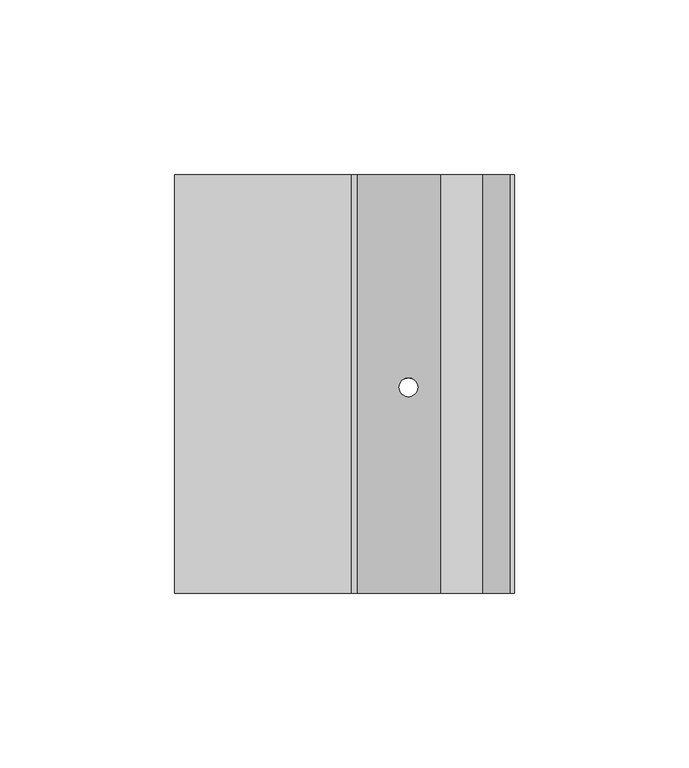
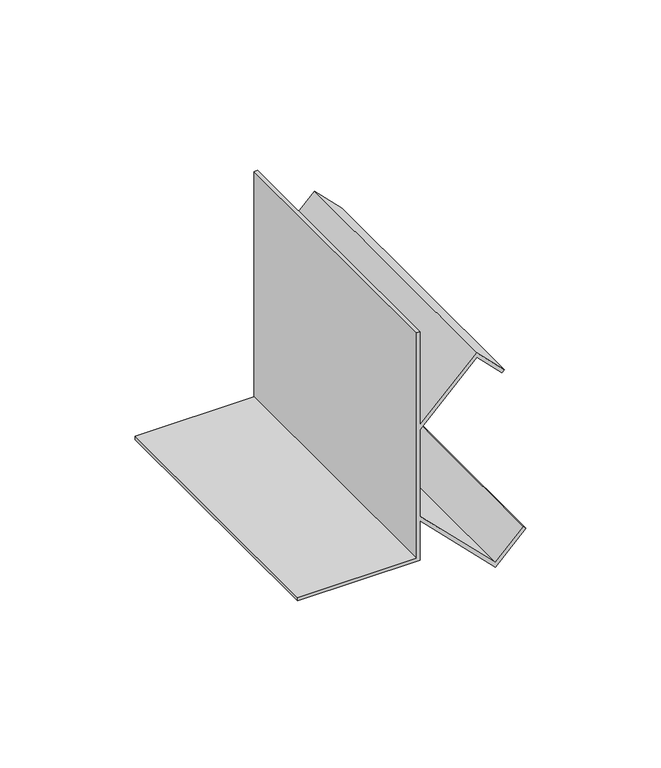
"""IFC4 building model written with IfcOpenShell, lengths in millimetres: proxy geometry, Mechanical Fittings & Accessories19 : Mechanical Fittings & Accessories."""

from ifc_helpers import new_model, si_unit, frame, origin, place, context, project, spatial, polyline, ellipse_curve, source, transform, mapped, element, save
from ifc_brep_helpers import plane_surface, revolved_surface, advanced_brep


def generic_models_30e69ff4(model_context):
    return source(origin(), model_context, "Body", "AdvancedBrep", [
        advanced_brep(
        [(-10977.7433312, 827.5745236, 4114.8), (-11028.5433312, 827.5745236, 4114.8), (-11028.5433312, 827.5745236, 4113.3117188), (-10976.25505, 827.5745236, 4113.3117188), (-10976.25505, 827.5745236, 4131.1383509), (-10944.145289, 827.5745236, 4099.0285899), (-10931.1663177, 827.5745236, 4112.0075612), (-10932.2186914, 827.5745236, 4113.059935), (-10944.145289, 827.5745236, 4101.1333374), (-10976.25505, 827.5745236, 4133.2430984), (-10976.25505, 827.5745236, 4172.2761118), (-10952.082789, 827.5745236, 4196.4483729), (-10941.3468164, 827.5745236, 4185.7124003), (-10940.2944427, 827.5745236, 4186.7647741), (-10952.082789, 827.5745236, 4198.5531204), (-10976.25505, 827.5745236, 4174.3808594), (-10976.25505, 827.5745236, 4216.4), (-10977.7433312, 827.5745236, 4216.4), (-10977.7433312, 947.5426707, 4114.8), (-10977.7433312, 947.5426707, 4216.4), (-10976.25505, 947.5426707, 4216.4), (-10976.25505, 947.5426707, 4174.3808594), (-10952.082789, 947.5426707, 4198.5531204), (-10940.2944427, 947.5426707, 4186.7647741), (-10941.3468164, 947.5426707, 4185.7124003), (-10952.082789, 947.5426707, 4196.4483729), (-10976.25505, 947.5426707, 4172.2761118), (-10976.25505, 947.5426707, 4133.2430984), (-10944.145289, 947.5426707, 4101.1333374), (-10932.2186914, 947.5426707, 4113.059935), (-10931.1663177, 947.5426707, 4112.0075612), (-10944.145289, 947.5426707, 4099.0285899), (-10976.25505, 947.5426707, 4131.1383509), (-10976.25505, 947.5426707, 4113.3117188), (-11028.5433312, 947.5426707, 4113.3117188), (-11028.5433312, 947.5426707, 4114.8), (-10964.1411396, 886.5972731, 4119.0244406), (-10958.8017728, 886.5972731, 4113.6850737), (-10958.8017728, 886.5972731, 4115.7898213), (-10964.1411396, 886.5972731, 4121.1291881), (-10964.1411396, 886.5972731, 4184.3900222), (-10958.8017728, 886.5972731, 4189.729389), (-10958.8017728, 886.5972731, 4191.8341365), (-10964.1411396, 886.5972731, 4186.4947697)],
        [
            (0, 1),
            (1, 2),
            (2, 3),
            (3, 4),
            (4, 5),
            (5, 6),
            (6, 7),
            (7, 8),
            (8, 9),
            (9, 10),
            (10, 11),
            (11, 12),
            (12, 13),
            (13, 14),
            (14, 15),
            (15, 16),
            (16, 17),
            (17, 0),
            (18, 19),
            (19, 20),
            (20, 21),
            (21, 22),
            (22, 23),
            (23, 24),
            (24, 25),
            (25, 26),
            (26, 27),
            (27, 28),
            (28, 29),
            (29, 30),
            (30, 31),
            (31, 32),
            (32, 33),
            (33, 34),
            (34, 35),
            (35, 18),
            (0, 18),
            (35, 1),
            (34, 2),
            (33, 3),
            (32, 4),
            (31, 5),
            (36, 37, ellipse_curve(frame((-10961.4714562, 886.5972731, 4116.3547571), z_axis=(0.7071067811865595, 0.0, 0.7071067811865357), x_axis=(-0.7071067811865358, 0.0, 0.7071067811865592)), 3.7755025, 2.6696834)),
            (37, 36, ellipse_curve(frame((-10961.4714562, 886.5972731, 4116.3547571), z_axis=(0.7071067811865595, 0.0, 0.7071067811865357), x_axis=(-0.7071067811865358, 0.0, 0.7071067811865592)), 3.7755025, 2.6696834)),
            (30, 6),
            (29, 7),
            (28, 8),
            (27, 9),
            (38, 39, ellipse_curve(frame((-10961.4714562, 886.5972731, 4118.4595047), z_axis=(-0.7071067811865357, 0.0, -0.7071067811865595), x_axis=(-0.7071067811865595, 0.0, 0.7071067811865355)), 3.7755025, 2.6696834)),
            (39, 38, ellipse_curve(frame((-10961.4714562, 886.5972731, 4118.4595047), z_axis=(-0.7071067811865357, 0.0, -0.7071067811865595), x_axis=(-0.7071067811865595, 0.0, 0.7071067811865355)), 3.7755025, 2.6696834)),
            (26, 10),
            (25, 11),
            (40, 41, ellipse_curve(frame((-10961.4714562, 886.5972731, 4187.0597056), z_axis=(-0.7071067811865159, 0.0, 0.7071067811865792), x_axis=(0.7071067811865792, 0.0, 0.7071067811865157)), 3.7755025, 2.6696834)),
            (41, 40, ellipse_curve(frame((-10961.4714562, 886.5972731, 4187.0597056), z_axis=(-0.7071067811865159, 0.0, 0.7071067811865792), x_axis=(0.7071067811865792, 0.0, 0.7071067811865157)), 3.7755025, 2.6696834)),
            (24, 12),
            (23, 13),
            (22, 14),
            (21, 15),
            (42, 43, ellipse_curve(frame((-10961.4714562, 886.5972731, 4189.1644531), z_axis=(0.7071067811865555, 0.0, -0.7071067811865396), x_axis=(0.7071067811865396, 0.0, 0.7071067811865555)), 3.7755025, 2.6696834)),
            (43, 42, ellipse_curve(frame((-10961.4714562, 886.5972731, 4189.1644531), z_axis=(0.7071067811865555, 0.0, -0.7071067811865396), x_axis=(0.7071067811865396, 0.0, 0.7071067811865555)), 3.7755025, 2.6696834)),
            (20, 16),
            (19, 17),
            (36, 39),
            (38, 37),
            (40, 43),
            (42, 41),
        ],
        [
            plane_surface(frame((-11028.5433312, 827.5745236, 4114.8), z_axis=(0.0, -1.0, 0.0), x_axis=(-1.0, 0.0, 0.0))),
            plane_surface(frame((-11028.5433312, 947.5426707, 4114.8), z_axis=(0.0, 1.0, 0.0), x_axis=(1.0, 0.0, 0.0))),
            plane_surface(frame((-10977.7433312, 827.5745236, 4114.8), z_axis=(0.0, 0.0, 1.0), x_axis=(0.0, 1.0, 0.0))),
            plane_surface(frame((-11028.5433312, 827.5745236, 4114.8), z_axis=(-1.0, 0.0, 0.0), x_axis=(0.0, 1.0, 0.0))),
            plane_surface(frame((-11028.5433312, 827.5745236, 4113.3117188), z_axis=(0.0, 0.0, -1.0), x_axis=(0.0, 1.0, 0.0))),
            plane_surface(frame((-10976.25505, 827.5745236, 4113.3117188), z_axis=(1.0, 0.0, 0.0), x_axis=(0.0, 1.0, 0.0))),
            plane_surface(frame((-10976.25505, 827.5745236, 4131.1383509), z_axis=(-0.7071067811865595, 0.0, -0.7071067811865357), x_axis=(0.0, 1.0, 0.0))),
            plane_surface(frame((-10944.145289, 827.5745236, 4099.0285899), z_axis=(0.7071067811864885, 0.0, -0.7071067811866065), x_axis=(0.0, 1.0, 0.0))),
            plane_surface(frame((-10931.1663177, 827.5745236, 4112.0075612), z_axis=(0.7071067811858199, 0.0, 0.7071067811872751), x_axis=(0.0, 1.0, 0.0))),
            plane_surface(frame((-10932.2186914, 827.5745236, 4113.059935), z_axis=(-0.7071067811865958, 0.0, 0.7071067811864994), x_axis=(0.0, 1.0, 0.0))),
            plane_surface(frame((-10944.145289, 827.5745236, 4101.1333374), z_axis=(0.7071067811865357, 0.0, 0.7071067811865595), x_axis=(0.0, 1.0, 0.0))),
            plane_surface(frame((-10976.25505, 827.5745236, 4133.2430984), z_axis=(1.0, 0.0, 0.0), x_axis=(0.0, 1.0, 0.0))),
            plane_surface(frame((-10976.25505, 827.5745236, 4172.2761118), z_axis=(0.7071067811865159, 0.0, -0.7071067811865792), x_axis=(0.0, 1.0, 0.0))),
            plane_surface(frame((-10952.082789, 827.5745236, 4196.4483729), z_axis=(-0.7071067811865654, 0.0, -0.7071067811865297), x_axis=(0.0, 1.0, 0.0))),
            plane_surface(frame((-10941.3468164, 827.5745236, 4185.7124003), z_axis=(0.7071067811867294, 0.0, -0.7071067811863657), x_axis=(0.0, 1.0, 0.0))),
            plane_surface(frame((-10940.2944427, 827.5745236, 4186.7647741), z_axis=(0.707106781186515, 0.0, 0.70710678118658), x_axis=(0.0, 1.0, 0.0))),
            plane_surface(frame((-10952.082789, 827.5745236, 4198.5531204), z_axis=(-0.7071067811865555, 0.0, 0.7071067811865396), x_axis=(0.0, 1.0, 0.0))),
            plane_surface(frame((-10976.25505, 827.5745236, 4174.3808594), z_axis=(1.0, 0.0, 0.0), x_axis=(0.0, 1.0, 0.0))),
            plane_surface(frame((-10976.25505, 827.5745236, 4216.4), z_axis=(0.0, 0.0, 1.0), x_axis=(0.0, 1.0, 0.0))),
            plane_surface(frame((-10977.7433312, 827.5745236, 4216.4), z_axis=(-1.0, 0.0, 0.0), x_axis=(0.0, 1.0, 0.0))),
            revolved_surface(polyline([(-10958.801772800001, 886.5972731, 4121.129188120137), (-10958.801772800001, 886.5972731, 4113.685073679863)]), (-10961.4714562, 886.5972731, 4097.2034211), (0.0, 0.0, 1.0)),
            revolved_surface(polyline([(-10958.801772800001, 886.5972731, 4191.834136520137), (-10958.801772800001, 886.5972731, 4184.390022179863)]), (-10961.4714562, 886.5972731, 4097.2034211), (0.0, 0.0, 1.0)),
        ],
        [
            (0, [[1, 2, 3, 4, 5, 6, 7, 8, 9, 10, 11, 12, 13, 14, 15, 16, 17, 18]]),
            (1, [[19, 20, 21, 22, 23, 24, 25, 26, 27, 28, 29, 30, 31, 32, 33, 34, 35, 36]]),
            (2, [[-1, 37, -36, 38]]),
            (3, [[-2, -38, -35, 39]]),
            (4, [[-3, -39, -34, 40]]),
            (5, [[-4, -40, -33, 41]]),
            (6, [[-5, -41, -32, 42], [43, 44]]),
            (7, [[-6, -42, -31, 45]]),
            (8, [[-7, -45, -30, 46]]),
            (9, [[-8, -46, -29, 47]]),
            (10, [[-9, -47, -28, 48], [49, 50]]),
            (11, [[-10, -48, -27, 51]]),
            (12, [[-11, -51, -26, 52], [53, 54]]),
            (13, [[-12, -52, -25, 55]]),
            (14, [[-13, -55, -24, 56]]),
            (15, [[-14, -56, -23, 57]]),
            (16, [[-15, -57, -22, 58], [59, 60]]),
            (17, [[-16, -58, -21, 61]]),
            (18, [[-17, -61, -20, 62]]),
            (19, [[-18, -62, -19, -37]]),
            (20, [[63, -49, 64, -43]]),
            (21, [[65, -59, 66, -53]]),
            (20, [[-63, -44, -64, -50]]),
            (21, [[-65, -54, -66, -60]]),
        ],
    ),
    ])


if __name__ == "__main__":
    model = new_model("IFC4")
    model_context = context("Model", 3, world=origin())
    ifc_project = project(units=[si_unit("LENGTHUNIT", "METRE", prefix="MILLI")], contexts=[model_context])
    site = spatial("IfcSite", under=ifc_project)
    building = spatial("IfcBuilding", under=site)
    placement = place(None, origin())
    generic_models_shape = generic_models_30e69ff4(model_context)
    element("IfcBuildingElementProxy", 1, Name="Mechanical Fittings & Accessories19 : Mechanical Fittings & Accessories", ObjectType="Mechanical Fittings & Accessories19 : Mechanical Fittings & Accessories", at=placement, inside=building, context=model_context, shape_type="MappedRepresentation", body=[
        mapped(generic_models_shape, transform((0.0, 0.0, 0.0), x_axis=(1.0, 0.0, 0.0), y_axis=(0.0, 1.0, 0.0), z_axis=(0.0, 0.0, 1.0))),
    ])
    save(model, "model.ifc")
